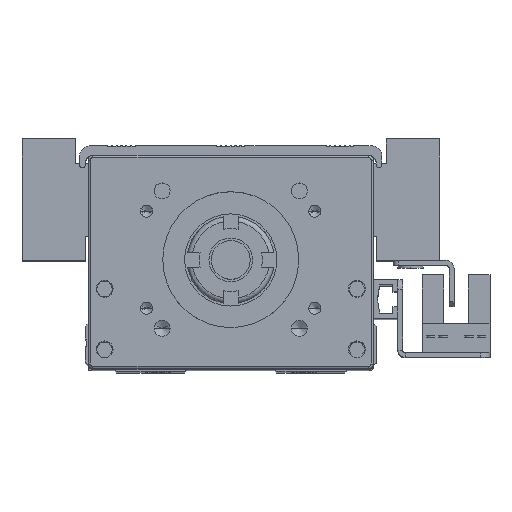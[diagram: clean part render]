
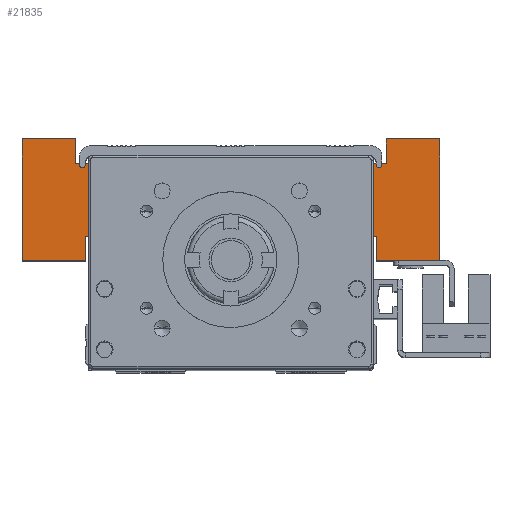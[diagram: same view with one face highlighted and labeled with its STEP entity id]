
A CAD part, top view. The second image highlights one B-rep face of the part: STEP entity #21835.
In plain terms, the highlighted planar face has unit normal (0, 0, 1) as drawn and (0, 1, 0) by its records, which use the part's own axes.
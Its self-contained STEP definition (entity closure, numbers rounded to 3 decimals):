
#677 = CARTESIAN_POINT ( 'NONE',  ( -50.915, 18.194, 60.1 ) ) ;
#985 = ORIENTED_EDGE ( 'NONE', *, *, #71093, .F. ) ;
#1243 = CARTESIAN_POINT ( 'NONE',  ( -37.915, 18.194, 60.1 ) ) ;
#1614 = DIRECTION ( 'NONE',  ( 1., 0., 0. ) ) ;
#2150 = VERTEX_POINT ( 'NONE', #30006 ) ;
#2548 = LINE ( 'NONE', #52138, #38645 ) ;
#2586 = LINE ( 'NONE', #677, #45772 ) ;
#2668 = ORIENTED_EDGE ( 'NONE', *, *, #72298, .F. ) ;
#2988 = LINE ( 'NONE', #27550, #20623 ) ;
#2999 = LINE ( 'NONE', #32133, #7367 ) ;
#3049 = DIRECTION ( 'NONE',  ( 1., 0., 0. ) ) ;
#3052 = CARTESIAN_POINT ( 'NONE',  ( 24.085, 18.194, 80.1 ) ) ;
#3170 = ORIENTED_EDGE ( 'NONE', *, *, #52462, .F. ) ;
#3506 = ORIENTED_EDGE ( 'NONE', *, *, #14661, .F. ) ;
#4381 = CARTESIAN_POINT ( 'NONE',  ( -50.915, 18.194, 85.1 ) ) ;
#4616 = CARTESIAN_POINT ( 'NONE',  ( -28.915, 18.194, 70.1 ) ) ;
#4926 = DIRECTION ( 'NONE',  ( 0., 0., 1. ) ) ;
#5917 = CARTESIAN_POINT ( 'NONE',  ( 35.085, 18.194, 85.1 ) ) ;
#6379 = CARTESIAN_POINT ( 'NONE',  ( -37.915, 18.194, 65.1 ) ) ;
#7367 = VECTOR ( 'NONE', #21079, 1000. ) ;
#7494 = CARTESIAN_POINT ( 'NONE',  ( -39.915, 18.194, 85.1 ) ) ;
#7677 = VECTOR ( 'NONE', #49833, 1000. ) ;
#10102 = EDGE_CURVE ( 'NONE', #13935, #43094, #2988, .T. ) ;
#10109 = CARTESIAN_POINT ( 'NONE',  ( 35.085, 18.194, 85.1 ) ) ;
#10202 = DIRECTION ( 'NONE',  ( 1., 0., 0. ) ) ;
#10611 = CARTESIAN_POINT ( 'NONE',  ( 22.085, 18.194, 60.1 ) ) ;
#10725 = VERTEX_POINT ( 'NONE', #45406 ) ;
#11067 = EDGE_CURVE ( 'NONE', #30069, #19310, #71583, .T. ) ;
#12813 = VECTOR ( 'NONE', #26807, 1000. ) ;
#13234 = AXIS2_PLACEMENT_3D ( 'NONE', #69091, #64157, #1614 ) ;
#13678 = ORIENTED_EDGE ( 'NONE', *, *, #38869, .F. ) ;
#13935 = VERTEX_POINT ( 'NONE', #1243 ) ;
#14661 = EDGE_CURVE ( 'NONE', #52461, #10725, #66034, .T. ) ;
#16222 = ORIENTED_EDGE ( 'NONE', *, *, #49328, .F. ) ;
#16444 = DIRECTION ( 'NONE',  ( 0., 0., -1. ) ) ;
#16778 = DIRECTION ( 'NONE',  ( 0., 0., 1. ) ) ;
#17353 = VECTOR ( 'NONE', #71750, 1000. ) ;
#19030 = EDGE_CURVE ( 'NONE', #48842, #13935, #35480, .T. ) ;
#19310 = VERTEX_POINT ( 'NONE', #60630 ) ;
#20623 = VECTOR ( 'NONE', #16778, 1000. ) ;
#20745 = VERTEX_POINT ( 'NONE', #3052 ) ;
#20925 = CARTESIAN_POINT ( 'NONE',  ( 13.085, 18.194, 65.1 ) ) ;
#21079 = DIRECTION ( 'NONE',  ( -1., 0., 0. ) ) ;
#21361 = LINE ( 'NONE', #61043, #62660 ) ;
#21787 = VERTEX_POINT ( 'NONE', #30219 ) ;
#21835 = ADVANCED_FACE ( 'NONE', ( #65779 ), #41475, .F. ) ;
#22769 = DIRECTION ( 'NONE',  ( 1., 0., 0. ) ) ;
#23331 = EDGE_CURVE ( 'NONE', #29209, #39031, #38138, .T. ) ;
#24080 = VECTOR ( 'NONE', #22769, 1000. ) ;
#26645 = EDGE_CURVE ( 'NONE', #58924, #45266, #48162, .T. ) ;
#26807 = DIRECTION ( 'NONE',  ( 1., 0., 0. ) ) ;
#26812 = DIRECTION ( 'NONE',  ( -1., 0., 0. ) ) ;
#27550 = CARTESIAN_POINT ( 'NONE',  ( -37.915, 18.194, 65.1 ) ) ;
#27809 = LINE ( 'NONE', #20925, #12813 ) ;
#28288 = CARTESIAN_POINT ( 'NONE',  ( -28.915, 18.194, 65.1 ) ) ;
#28324 = DIRECTION ( 'NONE',  ( 0., 0., -1. ) ) ;
#28603 = CARTESIAN_POINT ( 'NONE',  ( 13.085, 18.194, 70.1 ) ) ;
#29209 = VERTEX_POINT ( 'NONE', #7494 ) ;
#29641 = DIRECTION ( 'NONE',  ( 1., 0., 0. ) ) ;
#30006 = CARTESIAN_POINT ( 'NONE',  ( -39.915, 18.194, 80.1 ) ) ;
#30069 = VERTEX_POINT ( 'NONE', #10611 ) ;
#30219 = CARTESIAN_POINT ( 'NONE',  ( 22.085, 18.194, 65.1 ) ) ;
#30234 = VECTOR ( 'NONE', #45430, 1000. ) ;
#31522 = ORIENTED_EDGE ( 'NONE', *, *, #66789, .F. ) ;
#31645 = LINE ( 'NONE', #64576, #53617 ) ;
#31862 = CARTESIAN_POINT ( 'NONE',  ( 22.085, 18.194, 60.1 ) ) ;
#32045 = VERTEX_POINT ( 'NONE', #28603 ) ;
#32133 = CARTESIAN_POINT ( 'NONE',  ( -39.915, 18.194, 80.1 ) ) ;
#32863 = VECTOR ( 'NONE', #26812, 1000. ) ;
#35366 = EDGE_CURVE ( 'NONE', #10725, #20745, #42847, .T. ) ;
#35480 = LINE ( 'NONE', #45388, #24080 ) ;
#38138 = LINE ( 'NONE', #4381, #32863 ) ;
#38197 = EDGE_CURVE ( 'NONE', #58456, #21787, #27809, .T. ) ;
#38378 = LINE ( 'NONE', #49627, #45449 ) ;
#38637 = ORIENTED_EDGE ( 'NONE', *, *, #11067, .F. ) ;
#38645 = VECTOR ( 'NONE', #63390, 1000. ) ;
#38869 = EDGE_CURVE ( 'NONE', #20745, #2150, #2999, .T. ) ;
#39031 = VERTEX_POINT ( 'NONE', #67035 ) ;
#40014 = ORIENTED_EDGE ( 'NONE', *, *, #23331, .F. ) ;
#41300 = VECTOR ( 'NONE', #65439, 1000. ) ;
#41475 = PLANE ( 'NONE',  #13234 ) ;
#41586 = VECTOR ( 'NONE', #10202, 1000. ) ;
#41875 = CARTESIAN_POINT ( 'NONE',  ( 13.085, 18.194, 65.1 ) ) ;
#42847 = LINE ( 'NONE', #71506, #17353 ) ;
#43094 = VERTEX_POINT ( 'NONE', #6379 ) ;
#44678 = ORIENTED_EDGE ( 'NONE', *, *, #35366, .F. ) ;
#45266 = VERTEX_POINT ( 'NONE', #4616 ) ;
#45388 = CARTESIAN_POINT ( 'NONE',  ( -37.915, 18.194, 60.1 ) ) ;
#45406 = CARTESIAN_POINT ( 'NONE',  ( 24.085, 18.194, 85.1 ) ) ;
#45430 = DIRECTION ( 'NONE',  ( 0., 0., -1. ) ) ;
#45449 = VECTOR ( 'NONE', #16444, 1000. ) ;
#45772 = VECTOR ( 'NONE', #28324, 1000. ) ;
#46121 = ORIENTED_EDGE ( 'NONE', *, *, #66053, .F. ) ;
#46151 = LINE ( 'NONE', #56031, #30234 ) ;
#48162 = LINE ( 'NONE', #72446, #7677 ) ;
#48842 = VERTEX_POINT ( 'NONE', #52365 ) ;
#49328 = EDGE_CURVE ( 'NONE', #21787, #30069, #38378, .T. ) ;
#49627 = CARTESIAN_POINT ( 'NONE',  ( 22.085, 18.194, 65.1 ) ) ;
#49833 = DIRECTION ( 'NONE',  ( 0., 0., 1. ) ) ;
#50151 = EDGE_LOOP ( 'NONE', ( #44678, #3506, #985, #38637, #16222, #72527, #53607, #2668, #56871, #31522, #63904, #52361, #3170, #40014, #46121, #13678 ) ) ;
#52138 = CARTESIAN_POINT ( 'NONE',  ( -39.915, 18.194, 85.1 ) ) ;
#52361 = ORIENTED_EDGE ( 'NONE', *, *, #19030, .F. ) ;
#52365 = CARTESIAN_POINT ( 'NONE',  ( -50.915, 18.194, 60.1 ) ) ;
#52461 = VERTEX_POINT ( 'NONE', #5917 ) ;
#52462 = EDGE_CURVE ( 'NONE', #39031, #48842, #2586, .T. ) ;
#53525 = VECTOR ( 'NONE', #29641, 1000. ) ;
#53607 = ORIENTED_EDGE ( 'NONE', *, *, #68089, .F. ) ;
#53617 = VECTOR ( 'NONE', #3049, 1000. ) ;
#55267 = LINE ( 'NONE', #69506, #53525 ) ;
#56031 = CARTESIAN_POINT ( 'NONE',  ( 13.085, 18.194, 70.1 ) ) ;
#56871 = ORIENTED_EDGE ( 'NONE', *, *, #26645, .F. ) ;
#58456 = VERTEX_POINT ( 'NONE', #41875 ) ;
#58924 = VERTEX_POINT ( 'NONE', #28288 ) ;
#60630 = CARTESIAN_POINT ( 'NONE',  ( 35.085, 18.194, 60.1 ) ) ;
#61043 = CARTESIAN_POINT ( 'NONE',  ( 35.085, 18.194, 60.1 ) ) ;
#62660 = VECTOR ( 'NONE', #4926, 1000. ) ;
#63390 = DIRECTION ( 'NONE',  ( 0., 0., 1. ) ) ;
#63904 = ORIENTED_EDGE ( 'NONE', *, *, #10102, .F. ) ;
#64157 = DIRECTION ( 'NONE',  ( 0., -1., 0. ) ) ;
#64576 = CARTESIAN_POINT ( 'NONE',  ( 13.085, 18.194, 70.1 ) ) ;
#65439 = DIRECTION ( 'NONE',  ( -1., 0., 0. ) ) ;
#65779 = FACE_OUTER_BOUND ( 'NONE', #50151, .T. ) ;
#66034 = LINE ( 'NONE', #10109, #41300 ) ;
#66053 = EDGE_CURVE ( 'NONE', #2150, #29209, #2548, .T. ) ;
#66789 = EDGE_CURVE ( 'NONE', #43094, #58924, #55267, .T. ) ;
#67035 = CARTESIAN_POINT ( 'NONE',  ( -50.915, 18.194, 85.1 ) ) ;
#68089 = EDGE_CURVE ( 'NONE', #32045, #58456, #46151, .T. ) ;
#69091 = CARTESIAN_POINT ( 'NONE',  ( -7.915, 18.194, 70.1 ) ) ;
#69506 = CARTESIAN_POINT ( 'NONE',  ( -28.915, 18.194, 65.1 ) ) ;
#71093 = EDGE_CURVE ( 'NONE', #19310, #52461, #21361, .T. ) ;
#71506 = CARTESIAN_POINT ( 'NONE',  ( 24.085, 18.194, 85.1 ) ) ;
#71583 = LINE ( 'NONE', #31862, #41586 ) ;
#71750 = DIRECTION ( 'NONE',  ( 0., 0., -1. ) ) ;
#72298 = EDGE_CURVE ( 'NONE', #45266, #32045, #31645, .T. ) ;
#72446 = CARTESIAN_POINT ( 'NONE',  ( -28.915, 18.194, 70.1 ) ) ;
#72527 = ORIENTED_EDGE ( 'NONE', *, *, #38197, .F. ) ;
